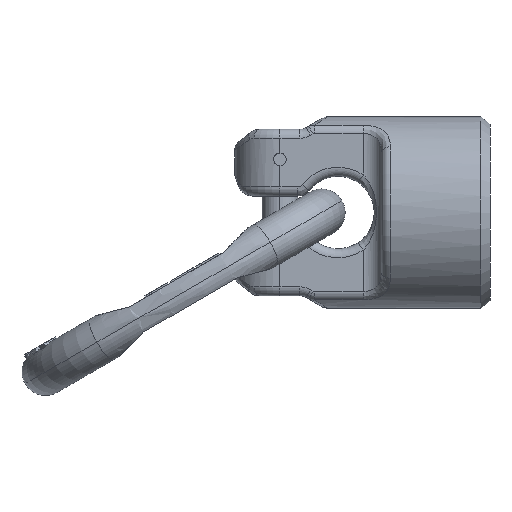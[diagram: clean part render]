
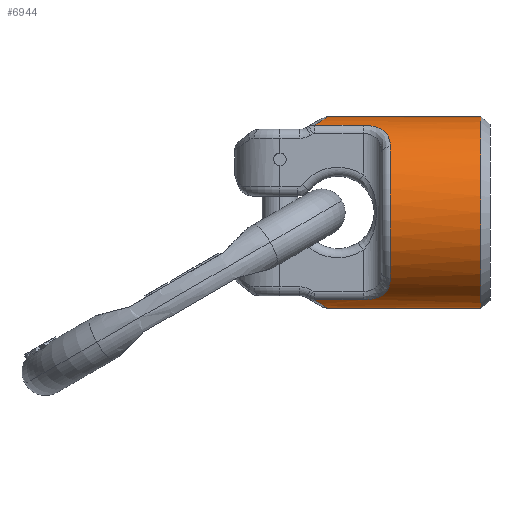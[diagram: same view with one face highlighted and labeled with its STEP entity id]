
A CAD part, front view. The second image highlights one B-rep face of the part: STEP entity #6944.
In plain terms, the highlighted cylindrical face has radius 26.5 mm (diameter 53 mm), a partial arc.
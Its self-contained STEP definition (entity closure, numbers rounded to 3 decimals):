
#950=DIRECTION('',(1.,0.,0.));
#951=VECTOR('',#950,42.196);
#952=CARTESIAN_POINT('',(25.804,0.,
-26.5));
#953=LINE('',#952,#951);
#1390=CARTESIAN_POINT('',(68.,0.,0.));
#1391=DIRECTION('',(1.,0.,0.));
#1392=DIRECTION('',(0.,0.,1.));
#1393=AXIS2_PLACEMENT_3D('',#1390,#1391,#1392);
#1395=CARTESIAN_POINT('',(22.102,-11.042,
-24.09));
#1396=CARTESIAN_POINT('',(22.536,-10.425,
-24.373));
#1397=CARTESIAN_POINT('',(23.316,-9.192,
-24.88));
#1398=CARTESIAN_POINT('',(24.232,-7.373,
-25.476));
#1399=CARTESIAN_POINT('',(24.915,-5.601,
-25.922));
#1400=CARTESIAN_POINT('',(25.403,-3.855,
-26.239));
#1401=CARTESIAN_POINT('',(25.727,-1.977,
-26.45));
#1402=CARTESIAN_POINT('',(25.804,-0.669,
-26.5));
#1403=CARTESIAN_POINT('',(25.804,0.,
-26.5));
#1405=DIRECTION('',(-1.,0.,0.));
#1406=VECTOR('',#1405,13.398);
#1407=CARTESIAN_POINT('',(35.5,-11.042,
-24.09));
#1408=LINE('',#1407,#1406);
#1409=CARTESIAN_POINT('',(43.,-19.323,-18.135));
#1410=CARTESIAN_POINT('',(43.,-18.866,
-18.622));
#1411=CARTESIAN_POINT('',(42.938,-17.93,
-19.55));
#1412=CARTESIAN_POINT('',(42.547,-16.335,
-20.897));
#1413=CARTESIAN_POINT('',(41.918,-14.953,
-21.896));
#1414=CARTESIAN_POINT('',(41.115,-13.768,
-22.655));
#1415=CARTESIAN_POINT('',(40.155,-12.777,
-23.223));
#1416=CARTESIAN_POINT('',(39.082,-12.003,
-23.63));
#1417=CARTESIAN_POINT('',(37.934,-11.449,
-23.901));
#1418=CARTESIAN_POINT('',(36.718,-11.114,
-24.057));
#1419=CARTESIAN_POINT('',(35.908,-11.042,
-24.09));
#1420=CARTESIAN_POINT('',(35.5,-11.042,
-24.09));
#1422=CARTESIAN_POINT('',(43.,0.,0.));
#1423=DIRECTION('',(1.,0.,0.));
#1424=DIRECTION('',(0.,-0.729,0.684));
#1425=AXIS2_PLACEMENT_3D('',#1422,#1423,#1424);
#1427=CARTESIAN_POINT('',(35.5,-11.042,24.09));
#1428=CARTESIAN_POINT('',(35.908,-11.042,24.09));
#1429=CARTESIAN_POINT('',(36.718,-11.114,24.057));
#1430=CARTESIAN_POINT('',(37.934,-11.449,23.901));
#1431=CARTESIAN_POINT('',(39.082,-12.003,23.63));
#1432=CARTESIAN_POINT('',(40.155,-12.778,23.223));
#1433=CARTESIAN_POINT('',(41.115,-13.768,22.654));
#1434=CARTESIAN_POINT('',(41.918,-14.953,21.896));
#1435=CARTESIAN_POINT('',(42.547,-16.335,20.897));
#1436=CARTESIAN_POINT('',(42.938,-17.93,19.55));
#1437=CARTESIAN_POINT('',(43.,-18.866,18.622));
#1438=CARTESIAN_POINT('',(43.,-19.323,18.135));
#1440=DIRECTION('',(1.,0.,0.));
#1441=VECTOR('',#1440,13.398);
#1442=CARTESIAN_POINT('',(22.102,-11.042,24.09));
#1443=LINE('',#1442,#1441);
#1444=CARTESIAN_POINT('',(25.804,0.,
26.5));
#1445=CARTESIAN_POINT('',(25.804,-0.587,
26.5));
#1446=CARTESIAN_POINT('',(25.743,-1.763,26.46));
#1447=CARTESIAN_POINT('',(25.481,-3.484,26.29));
#1448=CARTESIAN_POINT('',(25.023,-5.278,25.991));
#1449=CARTESIAN_POINT('',(24.334,-7.15,25.543));
#1450=CARTESIAN_POINT('',(23.374,-9.099,24.918));
#1451=CARTESIAN_POINT('',(22.558,-10.395,24.386));
#1452=CARTESIAN_POINT('',(22.102,-11.042,24.09));
#1454=DIRECTION('',(1.,0.,0.));
#1455=VECTOR('',#1454,42.196);
#1456=CARTESIAN_POINT('',(25.804,0.,
26.5));
#1457=LINE('',#1456,#1455);
#4608=CARTESIAN_POINT('',(25.804,0.,26.5));
#4610=VERTEX_POINT('',#4608);
#4612=CARTESIAN_POINT('',(25.804,0.,
-26.5));
#4614=VERTEX_POINT('',#4612);
#4618=VERTEX_POINT('',#1427);
#4619=VERTEX_POINT('',#1438);
#4620=CARTESIAN_POINT('',(22.102,-11.042,24.09));
#4621=VERTEX_POINT('',#4620);
#4644=VERTEX_POINT('',#1409);
#4645=VERTEX_POINT('',#1420);
#4650=CARTESIAN_POINT('',(22.102,-11.042,
-24.09));
#4651=VERTEX_POINT('',#4650);
#5478=CARTESIAN_POINT('',(68.,0.,-26.5));
#5480=VERTEX_POINT('',#5478);
#5483=CARTESIAN_POINT('',(68.,0.,26.5));
#5485=VERTEX_POINT('',#5483);
#6920=CARTESIAN_POINT('',(0.,0.,0.));
#6921=DIRECTION('',(1.,0.,0.));
#6922=DIRECTION('',(0.,0.,-1.));
#6923=AXIS2_PLACEMENT_3D('',#6920,#6921,#6922);
#6924=CYLINDRICAL_SURFACE('',#6923,26.5);
#6925=ORIENTED_EDGE('',*,*,#5510,.T.);
#6926=ORIENTED_EDGE('',*,*,#5563,.F.);
#6928=ORIENTED_EDGE('',*,*,#6927,.F.);
#6930=ORIENTED_EDGE('',*,*,#6929,.F.);
#6932=ORIENTED_EDGE('',*,*,#6931,.F.);
#6934=ORIENTED_EDGE('',*,*,#6933,.F.);
#6936=ORIENTED_EDGE('',*,*,#6935,.F.);
#6938=ORIENTED_EDGE('',*,*,#6937,.F.);
#6940=ORIENTED_EDGE('',*,*,#6939,.F.);
#6941=ORIENTED_EDGE('',*,*,#5547,.T.);
#6942=EDGE_LOOP('',(#6925,#6926,#6928,#6930,#6932,#6934,#6936,#6938,#6940,
#6941));
#6943=FACE_OUTER_BOUND('',#6942,.F.);
#6944=ADVANCED_FACE('',(#6943),#6924,.T.);
#1394=CIRCLE('',#1393,26.5);
#1404=B_SPLINE_CURVE_WITH_KNOTS('',3,(#1395,#1396,#1397,#1398,#1399,#1400,#1401,
#1402,#1403),.UNSPECIFIED.,.F.,.F.,(4,1,1,1,1,1,4),(0.,0.167,
0.333,0.5,0.667,0.833,1.),
.UNSPECIFIED.);
#1421=B_SPLINE_CURVE_WITH_KNOTS('',3,(#1409,#1410,#1411,#1412,#1413,#1414,#1415,
#1416,#1417,#1418,#1419,#1420),.UNSPECIFIED.,.F.,.F.,(4,1,1,1,1,1,1,1,1,4),
(0.,0.111,0.222,0.333,0.444,
0.556,0.667,0.778,0.889,1.),
.UNSPECIFIED.);
#1426=CIRCLE('',#1425,26.5);
#1439=B_SPLINE_CURVE_WITH_KNOTS('',3,(#1427,#1428,#1429,#1430,#1431,#1432,#1433,
#1434,#1435,#1436,#1437,#1438),.UNSPECIFIED.,.F.,.F.,(4,1,1,1,1,1,1,1,1,4),
(0.,0.111,0.222,0.333,0.444,
0.556,0.667,0.778,0.889,1.),
.UNSPECIFIED.);
#1453=B_SPLINE_CURVE_WITH_KNOTS('',3,(#1444,#1445,#1446,#1447,#1448,#1449,#1450,
#1451,#1452),.UNSPECIFIED.,.F.,.F.,(4,1,1,1,1,1,4),(0.,0.167,
0.333,0.5,0.667,0.833,1.),
.UNSPECIFIED.);
#5510=EDGE_CURVE('',#5485,#5480,#1394,.T.);
#5547=EDGE_CURVE('',#4610,#5485,#1457,.T.);
#5563=EDGE_CURVE('',#4614,#5480,#953,.T.);
#6927=EDGE_CURVE('',#4651,#4614,#1404,.T.);
#6929=EDGE_CURVE('',#4645,#4651,#1408,.T.);
#6931=EDGE_CURVE('',#4644,#4645,#1421,.T.);
#6933=EDGE_CURVE('',#4619,#4644,#1426,.T.);
#6935=EDGE_CURVE('',#4618,#4619,#1439,.T.);
#6937=EDGE_CURVE('',#4621,#4618,#1443,.T.);
#6939=EDGE_CURVE('',#4610,#4621,#1453,.T.);
